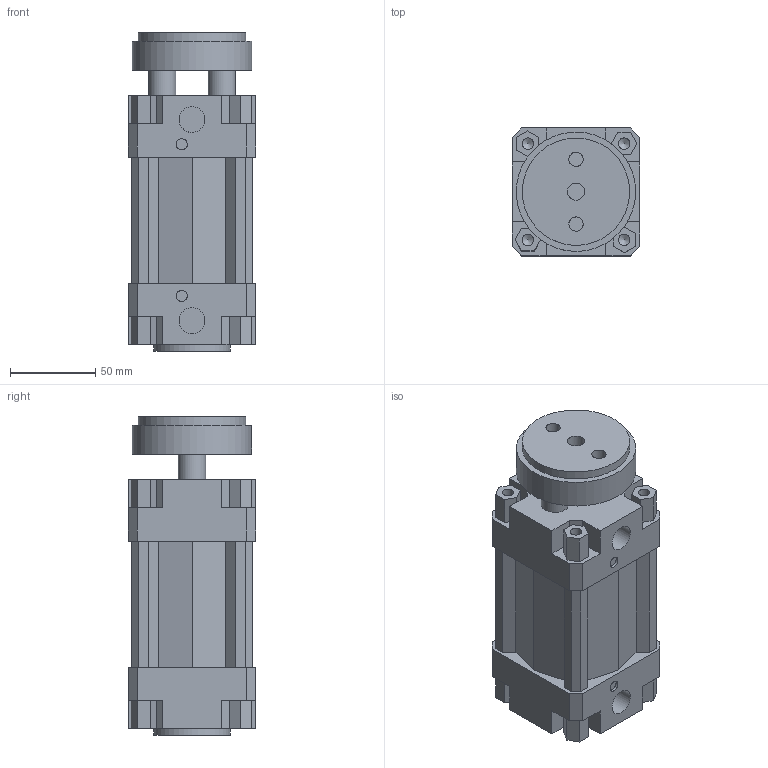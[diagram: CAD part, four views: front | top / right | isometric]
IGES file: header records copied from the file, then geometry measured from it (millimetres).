
Global section: file name: 132#_063_0025_01; native system: Autodesk Inventor 2014; preprocessor: unknown; author: A. Manieri; date: 20161006.155827; units: millimetre
Bounding box: 75 x 75 x 187 mm (x, y, z)
Volume: 706083.6 mm3; surface area: 127751.1 mm2
Topology: 2 solids, 2 shells, 180 faces, 491 edges, 335 vertices
Faces by surface type: bspline 180
